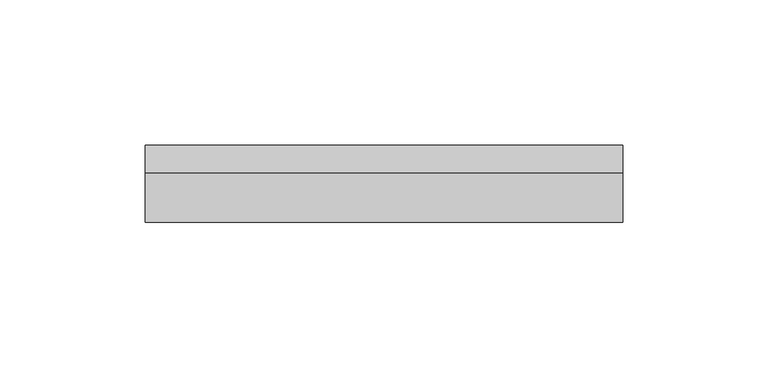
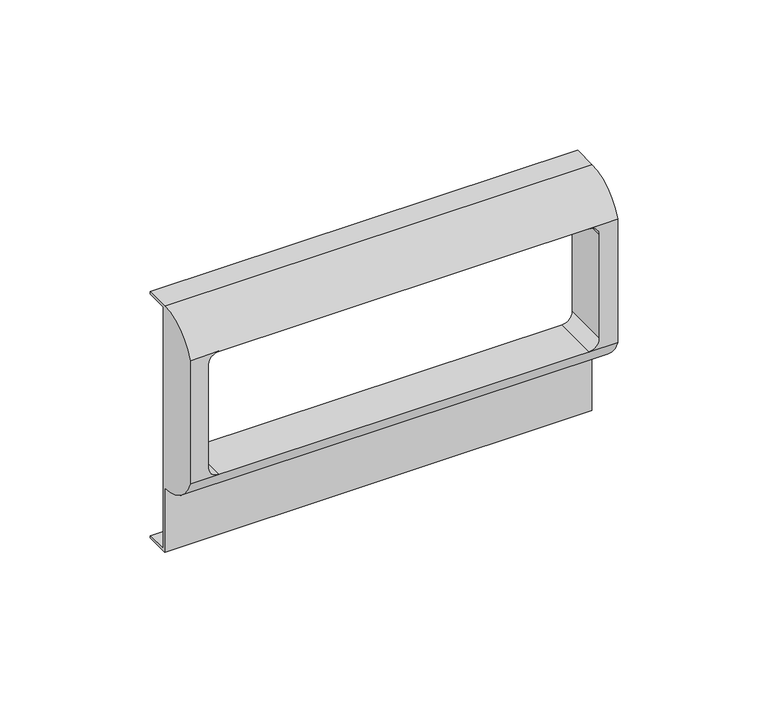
"""IFC4 building model written with IfcOpenShell, lengths in millimetres: proxy geometry."""

from ifc_helpers import new_model, si_unit, frame, origin, place, context, project, spatial, polyline, circle_curve, source, transform, mapped, element, save
from ifc_brep_helpers import plane_surface, cylinder_surface, revolved_surface, advanced_brep


def electrical_fixtures_591d0eef(model_context):
    return source(origin(), model_context, "Body", "AdvancedBrep", [
        advanced_brep(
        [(82.0, 8.4, 49.0), (82.0, 8.4, 50.0), (82.0, -1.0, 50.0), (82.0, -18.0, 38.0), (82.0, -18.0, -12.0), (82.0, -1.0, -24.0), (82.0, -1.0, -50.0), (82.0, 8.4, -50.0), (82.0, 8.4, -49.0), (82.0, 0.0, -49.0), (82.0, 0.0, 49.0), (-82.0, 8.4, 49.0), (-82.0, 0.0, 49.0), (-82.0, 0.0, -49.0), (-82.0, 8.4, -49.0), (-82.0, 8.4, -50.0), (-82.0, -1.0, -50.0), (-82.0, -1.0, -24.0), (-82.0, -18.0, -12.0), (-82.0, -18.0, 38.0), (-82.0, -1.0, 50.0), (-82.0, 8.4, 50.0), (70.9686648, -18.0, 38.0), (75.0, -18.0, 33.9686648), (75.0, -18.0, -7.9686648), (70.9686648, -18.0, -12.0), (-70.9686648, -18.0, -12.0), (-75.0, -18.0, -7.9686648), (-75.0, -18.0, 33.9686648), (-70.9686648, -18.0, 38.0), (70.9686648, 0.0, 38.0), (-70.9686648, 0.0, 38.0), (-75.0, 0.0, 33.9686648), (-75.0, 0.0, -7.9686648), (-70.9686648, 0.0, -12.0), (70.9686648, 0.0, -12.0), (75.0, 0.0, -7.9686648), (75.0, 0.0, 33.9686648)],
        [
            (0, 1),
            (1, 2),
            (2, 3, circle_curve(frame((82.0, -1.0, 31.9583333), z_axis=(1.0, 0.0, 0.0), x_axis=(0.0, 1.0, 0.0)), 18.0416667)),
            (3, 4),
            (4, 5, circle_curve(frame((82.0, -1.0, -5.9583333), z_axis=(1.0, 0.0, 0.0), x_axis=(0.0, 1.0, 0.0)), 18.0416667)),
            (5, 6),
            (6, 7),
            (7, 8),
            (8, 9),
            (9, 10),
            (10, 0),
            (11, 12),
            (12, 13),
            (13, 14),
            (14, 15),
            (15, 16),
            (16, 17),
            (17, 18, circle_curve(frame((-82.0, -1.0, -5.9583333), z_axis=(-1.0, 0.0, 0.0), x_axis=(0.0, 1.0, 0.0)), 18.0416667)),
            (18, 19),
            (19, 20, circle_curve(frame((-82.0, -1.0, 31.9583333), z_axis=(-1.0, 0.0, 0.0), x_axis=(0.0, 1.0, 0.0)), 18.0416667)),
            (20, 21),
            (21, 11),
            (0, 11),
            (21, 1),
            (20, 2),
            (3, 22),
            (22, 23, circle_curve(frame((70.9686648, -18.0, 33.9686648), z_axis=(0.0, 1.0, 0.0), x_axis=(1.0, 0.0, 0.0)), 4.0313352)),
            (23, 24),
            (24, 25, circle_curve(frame((70.9686648, -18.0, -7.9686648), z_axis=(0.0, 1.0, 0.0), x_axis=(1.0, 0.0, 0.0)), 4.0313352)),
            (25, 4),
            (18, 26),
            (26, 27, circle_curve(frame((-70.9686648, -18.0, -7.9686648), z_axis=(0.0, 1.0, 0.0), x_axis=(1.0, 0.0, 0.0)), 4.0313352)),
            (27, 28),
            (28, 29, circle_curve(frame((-70.9686648, -18.0, 33.9686648), z_axis=(0.0, 1.0, 0.0), x_axis=(1.0, 0.0, 0.0)), 4.0313352)),
            (29, 19),
            (5, 17),
            (16, 6),
            (15, 7),
            (14, 8),
            (13, 9),
            (12, 10),
            (30, 31),
            (31, 32, circle_curve(frame((-70.9686648, 0.0, 33.9686648), z_axis=(0.0, -1.0, 0.0), x_axis=(1.0, 0.0, 0.0)), 4.0313352)),
            (32, 33),
            (33, 34, circle_curve(frame((-70.9686648, 0.0, -7.9686648), z_axis=(0.0, -1.0, 0.0), x_axis=(1.0, 0.0, 0.0)), 4.0313352)),
            (34, 35),
            (35, 36, circle_curve(frame((70.9686648, 0.0, -7.9686648), z_axis=(0.0, -1.0, 0.0), x_axis=(1.0, 0.0, 0.0)), 4.0313352)),
            (36, 37),
            (37, 30, circle_curve(frame((70.9686648, 0.0, 33.9686648), z_axis=(0.0, -1.0, 0.0), x_axis=(1.0, 0.0, 0.0)), 4.0313352)),
            (29, 22),
            (25, 26),
            (29, 31),
            (30, 22),
            (28, 32),
            (27, 33),
            (26, 34),
            (25, 35),
            (24, 36),
            (23, 37),
        ],
        [
            plane_surface(frame((82.0, 8.4, 50.0), z_axis=(1.0, 0.0, 0.0), x_axis=(0.0, 0.0, 1.0))),
            plane_surface(frame((-82.0, 8.4, 50.0), z_axis=(-1.0, 0.0, 0.0), x_axis=(0.0, 0.0, -1.0))),
            plane_surface(frame((82.0, 8.4, 49.0), z_axis=(0.0, 1.0, 0.0), x_axis=(-1.0, 0.0, 0.0))),
            plane_surface(frame((82.0, 8.4, 50.0), z_axis=(0.0, 0.0, 1.0), x_axis=(-1.0, 0.0, 0.0))),
            plane_surface(frame((82.0, -18.0, 38.0), z_axis=(0.0, -1.0, 0.0), x_axis=(-1.0, 0.0, 0.0))),
            plane_surface(frame((82.0, -1.0, -24.0), z_axis=(0.0, -1.0, 0.0), x_axis=(-1.0, 0.0, 0.0))),
            plane_surface(frame((82.0, -1.0, -50.0), z_axis=(0.0, 0.0, -1.0), x_axis=(-1.0, 0.0, 0.0))),
            plane_surface(frame((82.0, 8.4, -50.0), z_axis=(0.0, 1.0, 0.0), x_axis=(-1.0, 0.0, 0.0))),
            plane_surface(frame((82.0, 8.4, -49.0), z_axis=(0.0, 0.0, 1.0), x_axis=(-1.0, 0.0, 0.0))),
            plane_surface(frame((82.0, 0.0, -49.0), z_axis=(0.0, 1.0, 0.0), x_axis=(-1.0, 0.0, 0.0))),
            plane_surface(frame((82.0, 0.0, 49.0), z_axis=(0.0, 0.0, -1.0), x_axis=(-1.0, 0.0, 0.0))),
            cylinder_surface(frame((-82.0, -1.0, 31.9583333), z_axis=(1.0, 0.0, 0.0), x_axis=(0.0, 1.0, 0.0)), 18.0416667),
            cylinder_surface(frame((-82.0, -1.0, -5.9583333), z_axis=(1.0, 0.0, 0.0), x_axis=(0.0, 1.0, 0.0)), 18.0416667),
            plane_surface(frame((70.9686648, -18.0, 38.0), z_axis=(0.0, 0.0, -1.0), x_axis=(0.0, 1.0, 0.0))),
            revolved_surface(polyline([(-66.9373296, -18.0, 33.9686648), (-66.9373296, 0.0, 33.9686648)]), (-70.9686648, 0.0, 33.9686648), (0.0, -1.0, 0.0)),
            plane_surface(frame((-75.0, -18.0, 33.9686648), z_axis=(1.0, 0.0, 0.0), x_axis=(0.0, 1.0, 0.0))),
            revolved_surface(polyline([(-66.9373296, -18.0, -7.9686648), (-66.9373296, 0.0, -7.9686648)]), (-70.9686648, 0.0, -7.9686648), (0.0, -1.0, 0.0)),
            plane_surface(frame((-70.9686648, -18.0, -12.0), z_axis=(0.0, 0.0, 1.0), x_axis=(0.0, 1.0, 0.0))),
            revolved_surface(polyline([(75.0, -18.0, -7.9686648), (75.0, 0.0, -7.9686648)]), (70.9686648, 0.0, -7.9686648), (0.0, -1.0, 0.0)),
            plane_surface(frame((75.0, -18.0, -7.9686648), z_axis=(-1.0, 0.0, 0.0), x_axis=(0.0, 1.0, 0.0))),
            revolved_surface(polyline([(75.0, -18.0, 33.9686648), (75.0, 0.0, 33.9686648)]), (70.9686648, 0.0, 33.9686648), (0.0, -1.0, 0.0)),
        ],
        [
            (0, [[1, 2, 3, 4, 5, 6, 7, 8, 9, 10, 11]]),
            (1, [[12, 13, 14, 15, 16, 17, 18, 19, 20, 21, 22]]),
            (2, [[-1, 23, -22, 24]]),
            (3, [[-2, -24, -21, 25]]),
            (4, [[-4, 26, 27, 28, 29, 30]]),
            (4, [[-19, 31, 32, 33, 34, 35]]),
            (5, [[-6, 36, -17, 37]]),
            (6, [[-7, -37, -16, 38]]),
            (7, [[-8, -38, -15, 39]]),
            (8, [[-9, -39, -14, 40]]),
            (9, [[-10, -40, -13, 41], [42, 43, 44, 45, 46, 47, 48, 49]]),
            (10, [[-11, -41, -12, -23]]),
            (11, [[-3, -25, -20, -35, 50, -26]]),
            (12, [[-5, -30, 51, -31, -18, -36]]),
            (13, [[52, -42, 53, -50]]),
            (14, [[-52, -34, 54, -43]]),
            (15, [[-54, -33, 55, -44]]),
            (16, [[-55, -32, 56, -45]]),
            (17, [[-56, -51, 57, -46]]),
            (18, [[-57, -29, 58, -47]]),
            (19, [[-58, -28, 59, -48]]),
            (20, [[-53, -49, -59, -27]]),
        ],
    ),
    ])


if __name__ == "__main__":
    model = new_model("IFC4")
    model_context = context("Model", 3, world=origin())
    ifc_project = project(units=[si_unit("LENGTHUNIT", "METRE", prefix="MILLI")], contexts=[model_context])
    site = spatial("IfcSite", under=ifc_project)
    building = spatial("IfcBuilding", under=site)
    placement = place(None, origin())
    electrical_fixtures_shape = electrical_fixtures_591d0eef(model_context)
    element("IfcBuildingElementProxy", 1, Name="КНС_РамкаСуппорт_ILC_DKC : Серия \"Viva\"", ObjectType="КНС_РамкаСуппорт_ILC_DKC : Серия \"Viva\"", at=placement, inside=building, context=model_context, shape_type="MappedRepresentation", body=[
        mapped(electrical_fixtures_shape, transform((0.0, 0.0, 0.0), x_axis=(1.0, 0.0, 0.0), y_axis=(0.0, 1.0, 0.0), z_axis=(0.0, 0.0, 1.0))),
    ])
    save(model, "model.ifc")
